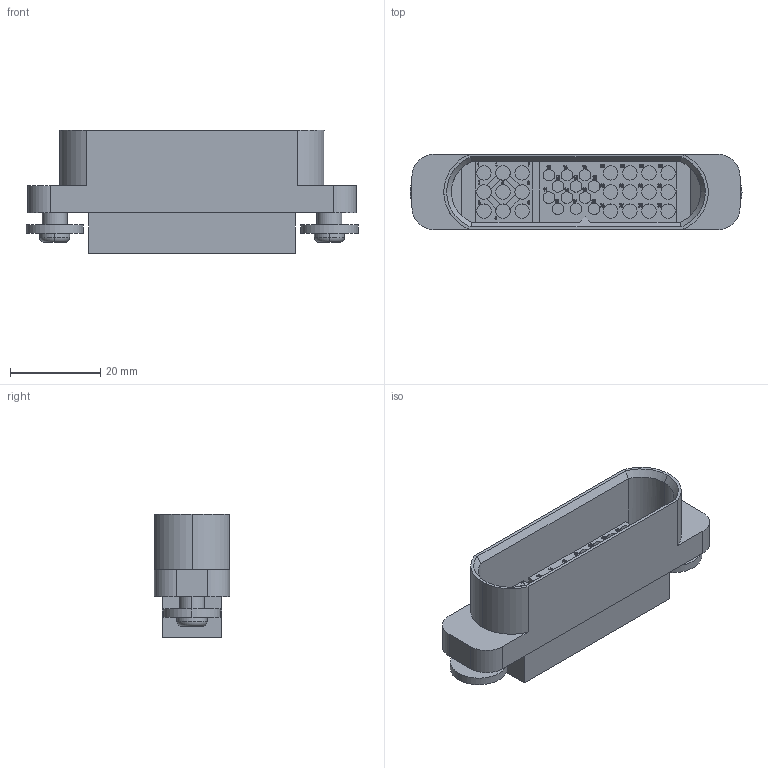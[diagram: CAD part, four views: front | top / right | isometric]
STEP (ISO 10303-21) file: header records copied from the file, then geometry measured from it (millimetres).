
FILE_DESCRIPTION (( 'STEP AP203' ), '1' );
FILE_NAME ('GFSH02M183.STEP', '2022-07-07T03:45:09', ( '' ), ( '' ), 'SwSTEP 2.0', 'SolidWorks 2021', '' );
FILE_SCHEMA (( 'CONFIG_CONTROL_DESIGN' ));
Products named in the file (1): GFSH02M183
Bounding box: 73.7 x 16.79 x 27.5 mm (x, y, z)
Volume: 14630.9 mm3; surface area: 10056.1 mm2
Topology: 1 solids, 3 shells, 2103 faces, 5543 edges, 3673 vertices
Faces by surface type: bspline 1000, plane 815, cylinder 230, cone 54, torus 4
Entity records: 142734 total; most frequent: CARTESIAN_POINT 97772, ORIENTED_EDGE 11086, DIRECTION 5998, EDGE_CURVE 5543, VERTEX_POINT 3673, LINE 2848, VECTOR 2848, EDGE_LOOP 2334
